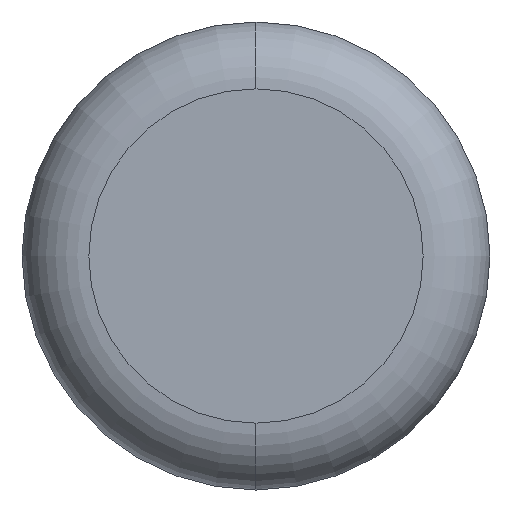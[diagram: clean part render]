
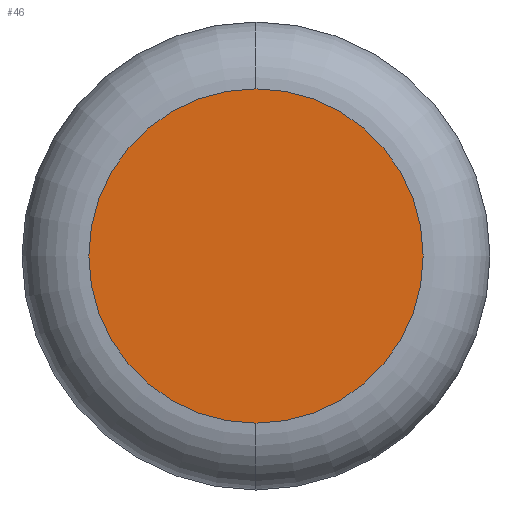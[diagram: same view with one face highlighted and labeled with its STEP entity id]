
A CAD part, left-side view. The second image highlights one B-rep face of the part: STEP entity #46.
In plain terms, the highlighted planar face has unit normal (-1, 0, 0).
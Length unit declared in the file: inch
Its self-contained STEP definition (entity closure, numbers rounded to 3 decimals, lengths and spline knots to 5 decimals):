
#46 = ADVANCED_FACE ( 'NONE', ( #154 ), #125, .T. ) ;
#47 = CARTESIAN_POINT ( 'NONE',  ( -0.95, 0., -0.5703 ) ) ;
#51 = CARTESIAN_POINT ( 'NONE',  ( -0.95, 0., -0.6203 ) ) ;
#90 = DIRECTION ( 'NONE',  ( 0., 0., 1. ) ) ;
#92 = DIRECTION ( 'NONE',  ( -1., 0., 0. ) ) ;
#93 = CARTESIAN_POINT ( 'NONE',  ( -0.95, 0., -0.6203 ) ) ;
#112 = DIRECTION ( 'NONE',  ( 0., 0., 1. ) ) ;
#113 = DIRECTION ( 'NONE',  ( -1., 0., 0. ) ) ;
#114 = CARTESIAN_POINT ( 'NONE',  ( -0.95, 0., -0.6203 ) ) ;
#122 = CARTESIAN_POINT ( 'NONE',  ( -0.95, 0., -0.6703 ) ) ;
#123 = DIRECTION ( 'NONE',  ( 0., 0., 1. ) ) ;
#124 = DIRECTION ( 'NONE',  ( -1., 0., 0. ) ) ;
#125 = PLANE ( 'NONE',  #220 ) ;
#133 = EDGE_LOOP ( 'NONE', ( #168, #164 ) ) ;
#135 = VERTEX_POINT ( 'NONE', #47 ) ;
#141 = VERTEX_POINT ( 'NONE', #122 ) ;
#152 = CIRCLE ( 'NONE', #219, 0.05 ) ;
#154 = FACE_OUTER_BOUND ( 'NONE', #133, .T. ) ;
#164 = ORIENTED_EDGE ( 'NONE', *, *, #188, .T. ) ;
#168 = ORIENTED_EDGE ( 'NONE', *, *, #227, .T. ) ;
#185 = CIRCLE ( 'NONE', #214, 0.05 ) ;
#188 = EDGE_CURVE ( 'NONE', #141, #135, #152, .T. ) ;
#214 = AXIS2_PLACEMENT_3D ( 'NONE', #93, #92, #90 ) ;
#219 = AXIS2_PLACEMENT_3D ( 'NONE', #114, #113, #112 ) ;
#220 = AXIS2_PLACEMENT_3D ( 'NONE', #51, #124, #123 ) ;
#227 = EDGE_CURVE ( 'NONE', #135, #141, #185, .T. ) ;
